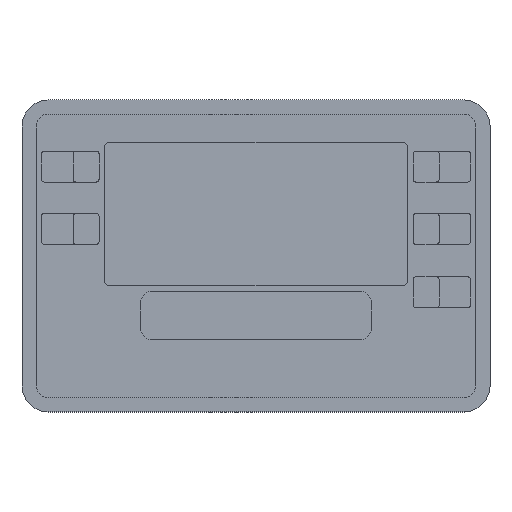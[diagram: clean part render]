
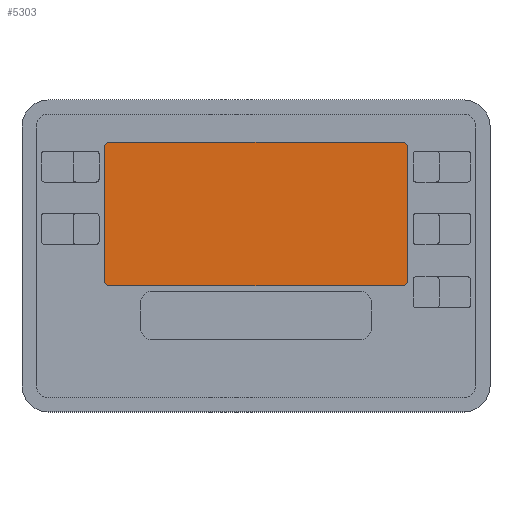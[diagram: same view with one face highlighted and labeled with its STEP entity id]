
A CAD part, top view. The second image highlights one B-rep face of the part: STEP entity #5303.
In plain terms, the highlighted planar face has unit normal (0, 0, 1).
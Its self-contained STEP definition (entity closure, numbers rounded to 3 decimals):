
#362=LINE('',#10102,#919);
#365=LINE('',#10110,#922);
#368=LINE('',#10118,#925);
#370=LINE('',#10124,#927);
#919=VECTOR('',#8409,1000.);
#922=VECTOR('',#8418,1000.);
#925=VECTOR('',#8427,1000.);
#927=VECTOR('',#8435,1000.);
#1788=ORIENTED_EDGE('',*,*,#3115,.T.);
#1789=ORIENTED_EDGE('',*,*,#3118,.T.);
#1790=ORIENTED_EDGE('',*,*,#3120,.T.);
#1791=ORIENTED_EDGE('',*,*,#3122,.T.);
#1792=ORIENTED_EDGE('',*,*,#3124,.T.);
#1793=ORIENTED_EDGE('',*,*,#3126,.T.);
#1794=ORIENTED_EDGE('',*,*,#3128,.T.);
#1795=ORIENTED_EDGE('',*,*,#3129,.T.);
#3115=EDGE_CURVE('',#3822,#3821,#4186,.T.);
#3118=EDGE_CURVE('',#3821,#3823,#362,.T.);
#3120=EDGE_CURVE('',#3823,#3824,#4187,.T.);
#3122=EDGE_CURVE('',#3824,#3825,#365,.T.);
#3124=EDGE_CURVE('',#3825,#3826,#4188,.T.);
#3126=EDGE_CURVE('',#3826,#3827,#368,.T.);
#3128=EDGE_CURVE('',#3827,#3828,#4189,.T.);
#3129=EDGE_CURVE('',#3828,#3822,#370,.T.);
#3821=VERTEX_POINT('',#10095);
#3822=VERTEX_POINT('',#10097);
#3823=VERTEX_POINT('',#10101);
#3824=VERTEX_POINT('',#10105);
#3825=VERTEX_POINT('',#10109);
#3826=VERTEX_POINT('',#10113);
#3827=VERTEX_POINT('',#10117);
#3828=VERTEX_POINT('',#10121);
#4186=CIRCLE('',#7482,2.);
#4187=CIRCLE('',#7485,2.);
#4188=CIRCLE('',#7488,2.);
#4189=CIRCLE('',#7491,2.);
#4414=EDGE_LOOP('',(#1788,#1789,#1790,#1791,#1792,#1793,#1794,#1795));
#4771=FACE_BOUND('',#4414,.T.);
#5073=PLANE('',#7493);
#5303=ADVANCED_FACE('',(#4771),#5073,.T.);
#7482=AXIS2_PLACEMENT_3D('',#10096,#8403,#8404);
#7485=AXIS2_PLACEMENT_3D('',#10106,#8413,#8414);
#7488=AXIS2_PLACEMENT_3D('',#10114,#8422,#8423);
#7491=AXIS2_PLACEMENT_3D('',#10122,#8431,#8432);
#7493=AXIS2_PLACEMENT_3D('',#10125,#8436,#8437);
#8403=DIRECTION('',(0.,0.,1.));
#8404=DIRECTION('',(1.,0.,0.));
#8409=DIRECTION('',(0.,-1.,0.));
#8413=DIRECTION('',(0.,0.,1.));
#8414=DIRECTION('',(1.,0.,0.));
#8418=DIRECTION('',(1.,0.,0.));
#8422=DIRECTION('',(0.,0.,1.));
#8423=DIRECTION('',(1.,0.,0.));
#8427=DIRECTION('',(0.,1.,0.));
#8431=DIRECTION('',(0.,0.,1.));
#8432=DIRECTION('',(1.,0.,0.));
#8435=DIRECTION('',(-1.,0.,0.));
#8436=DIRECTION('',(0.,0.,1.));
#8437=DIRECTION('',(1.,0.,0.));
#10095=CARTESIAN_POINT('',(-58.287,41.752,1.8));
#10096=CARTESIAN_POINT('',(-56.287,41.752,1.8));
#10097=CARTESIAN_POINT('',(-56.287,43.752,1.8));
#10101=CARTESIAN_POINT('',(-58.287,-9.438,1.8));
#10102=CARTESIAN_POINT('',(-58.287,41.752,1.8));
#10105=CARTESIAN_POINT('',(-56.287,-11.438,1.8));
#10106=CARTESIAN_POINT('',(-56.287,-9.438,1.8));
#10109=CARTESIAN_POINT('',(56.287,-11.438,1.8));
#10110=CARTESIAN_POINT('',(-56.287,-11.438,1.8));
#10113=CARTESIAN_POINT('',(58.287,-9.438,1.8));
#10114=CARTESIAN_POINT('',(56.287,-9.438,1.8));
#10117=CARTESIAN_POINT('',(58.287,41.752,1.8));
#10118=CARTESIAN_POINT('',(58.287,-9.438,1.8));
#10121=CARTESIAN_POINT('',(56.287,43.752,1.8));
#10122=CARTESIAN_POINT('',(56.287,41.752,1.8));
#10124=CARTESIAN_POINT('',(56.287,43.752,1.8));
#10125=CARTESIAN_POINT('',(-56.287,41.752,1.8));
